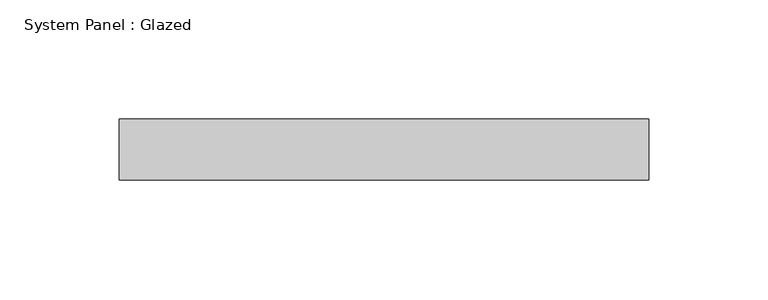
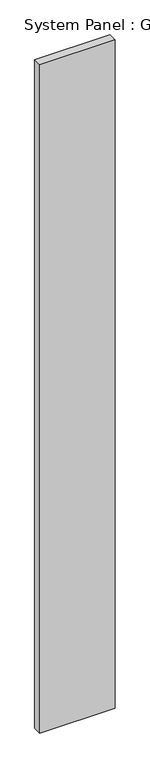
"""IFC4 building model written with IfcOpenShell, lengths in millimetres: plate geometry, System Panel : Glazed."""

from ifc_helpers import new_model, si_unit, origin, origin_with_axes, place, context, project, spatial, polyline, outline, extrude, source, transform, mapped, element, save


def system_panel_glazed_257c6b8d(model_context):
    return source(origin(), model_context, "Body", "SweptSolid", [
        extrude(outline(polyline([(110.747598, -44.45), (-110.747598, -44.45), (-110.747598, -19.05), (110.747598, -19.05), (110.747598, -44.45)])), origin_with_axes(), (0.0, 0.0, 1.0), 2070.1),
    ])


if __name__ == "__main__":
    model = new_model("IFC4")
    model_context = context("Model", 3, world=origin())
    ifc_project = project(units=[si_unit("LENGTHUNIT", "METRE", prefix="MILLI")], contexts=[model_context])
    site = spatial("IfcSite", under=ifc_project)
    building = spatial("IfcBuilding", under=site)
    placement = place(None, origin())
    system_panel_glazed_shape = system_panel_glazed_257c6b8d(model_context)
    element("IfcPlate", 1, ObjectType="System Panel : Glazed", at=placement, inside=building, context=model_context, shape_type="MappedRepresentation", body=[
        mapped(system_panel_glazed_shape, transform((0.0, 0.0, 0.0), x_axis=(1.0, 0.0, 0.0), y_axis=(0.0, 1.0, 0.0), z_axis=(0.0, 0.0, 1.0))),
    ])
    save(model, "model.ifc")
